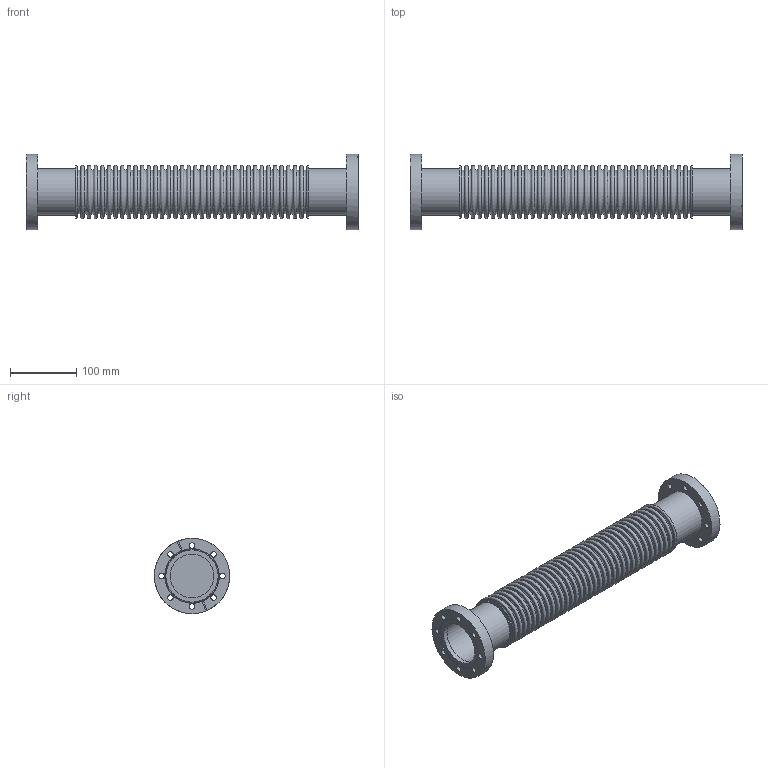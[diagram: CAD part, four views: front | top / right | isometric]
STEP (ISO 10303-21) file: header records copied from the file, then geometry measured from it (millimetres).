
FILE_DESCRIPTION( ( 'Unknown' ), '1' );
FILE_NAME( 'X:/Daten ( aktueller Bestand )/Projekte und Zeichnungen/Solid Edge/STP-Dateien/CF-Teile/7913RU4.stp', 'Unknown', ( 'Unknown' ), ( 'Unknown' ), 'PSStep 14.0', 'Unknown', ' ' );
FILE_SCHEMA( ( 'AUTOMOTIVE_DESIGN { 1 0 10303 214 1 1 1 1 }' ) );
Length unit declared in the file: millimetre
Products named in the file (7): 7513R; 7513R-1; 7513R-2; Assem1; 7903R-1; 7513F; 7913R-2
Assembly tree (7 placements, depth 3):
  Assem1
    7903R-1  x2
    7513F
    7913R-2
    7513R
      7513R-1
      7513R-2
Bounding box: 500 x 113.5 x 113.5 mm (x, y, z)
Volume: 1718782.5 mm3; surface area: 297169.4 mm2
Topology: 6 solids, 6 shells, 201 faces, 344 edges, 229 vertices
Faces by surface type: plane 90, torus 71, cylinder 36, cone 4
Full cylindrical faces by diameter (mm): 8.4 x16, 66 x4, 70 x2, 70.3 x2, 72 x1, 74 x2, 82 x1, 82.3 x1, 82.5 x1, 113.5 x2
Entity records: 6018 total; most frequent: DIRECTION 834, CARTESIAN_POINT 750, ORIENTED_EDGE 450, AXIS2_PLACEMENT_3D 413, EDGE_LOOP 412, FACE_OUTER_BOUND 295, EDGE_CURVE 225, VERTEX_POINT 217
